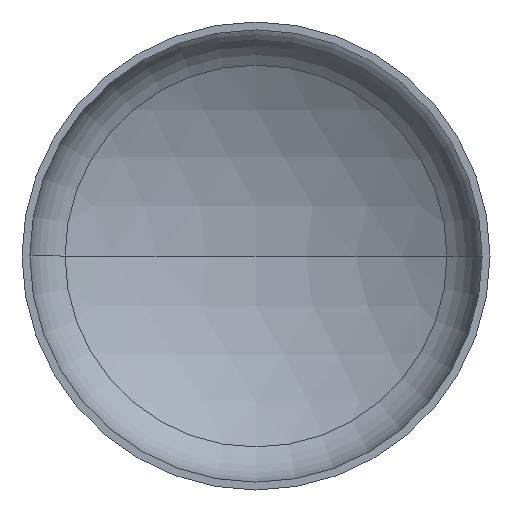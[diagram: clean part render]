
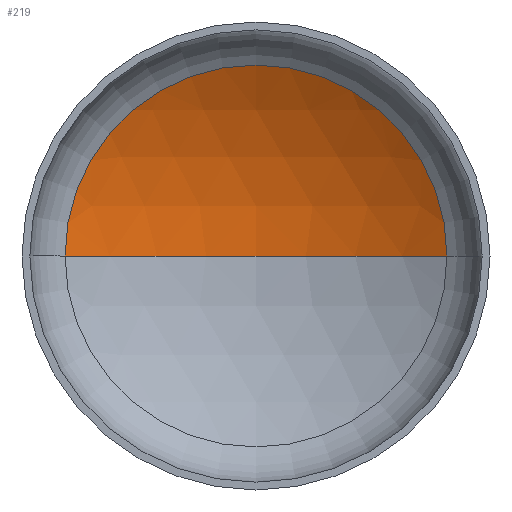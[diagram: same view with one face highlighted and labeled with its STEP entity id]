
A CAD part, front view. The second image highlights one B-rep face of the part: STEP entity #219.
In plain terms, the highlighted spherical face has radius 4400 mm.
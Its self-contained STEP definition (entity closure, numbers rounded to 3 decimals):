
#7 = ORIENTED_EDGE ( 'NONE', *, *, #195, .F. ) ;
#19 = AXIS2_PLACEMENT_3D ( 'NONE', #106, #104, #103 ) ;
#21 = VERTEX_POINT ( 'NONE', #187 ) ;
#23 = EDGE_LOOP ( 'NONE', ( #7, #408, #98 ) ) ;
#76 = CIRCLE ( 'NONE', #97, 4400. ) ;
#97 = AXIS2_PLACEMENT_3D ( 'NONE', #124, #147, #145 ) ;
#98 = ORIENTED_EDGE ( 'NONE', *, *, #132, .T. ) ;
#103 = DIRECTION ( 'NONE',  ( -1., 0., 0. ) ) ;
#104 = DIRECTION ( 'NONE',  ( 0., 0., -1. ) ) ;
#106 = CARTESIAN_POINT ( 'NONE',  ( 0., -2957.95, 0. ) ) ;
#118 = CARTESIAN_POINT ( 'NONE',  ( 0., 826.854, 0. ) ) ;
#122 = DIRECTION ( 'NONE',  ( 0., -1., 0. ) ) ;
#124 = CARTESIAN_POINT ( 'NONE',  ( 0., -2957.95, 0. ) ) ;
#132 = EDGE_CURVE ( 'NONE', #21, #368, #403, .T. ) ;
#141 = DIRECTION ( 'NONE',  ( 0., 0., -1. ) ) ;
#145 = DIRECTION ( 'NONE',  ( 1., 0., 0. ) ) ;
#147 = DIRECTION ( 'NONE',  ( 0., 0., 1. ) ) ;
#177 = EDGE_CURVE ( 'NONE', #239, #21, #336, .T. ) ;
#186 = AXIS2_PLACEMENT_3D ( 'NONE', #411, #141, #210 ) ;
#187 = CARTESIAN_POINT ( 'NONE',  ( 2243.938, 826.854, 0. ) ) ;
#195 = EDGE_CURVE ( 'NONE', #239, #368, #76, .T. ) ;
#210 = DIRECTION ( 'NONE',  ( -1., 0., 0. ) ) ;
#219 = ADVANCED_FACE ( 'NONE', ( #321 ), #241, .F. ) ;
#239 = VERTEX_POINT ( 'NONE', #357 ) ;
#241 = SPHERICAL_SURFACE ( 'NONE', #186, 4400. ) ;
#262 = DIRECTION ( 'NONE',  ( 1., 0., 0. ) ) ;
#321 = FACE_OUTER_BOUND ( 'NONE', #23, .T. ) ;
#331 = CARTESIAN_POINT ( 'NONE',  ( -2243.938, 826.854, 0. ) ) ;
#336 = CIRCLE ( 'NONE', #19, 4400. ) ;
#357 = CARTESIAN_POINT ( 'NONE',  ( 0., 1442.05, 0. ) ) ;
#368 = VERTEX_POINT ( 'NONE', #331 ) ;
#370 = AXIS2_PLACEMENT_3D ( 'NONE', #118, #122, #262 ) ;
#403 = CIRCLE ( 'NONE', #370, 2243.938 ) ;
#408 = ORIENTED_EDGE ( 'NONE', *, *, #177, .T. ) ;
#411 = CARTESIAN_POINT ( 'NONE',  ( 0., -2957.95, 0. ) ) ;
